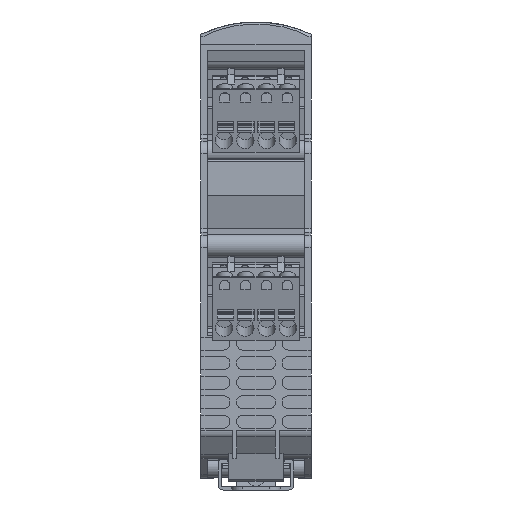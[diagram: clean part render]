
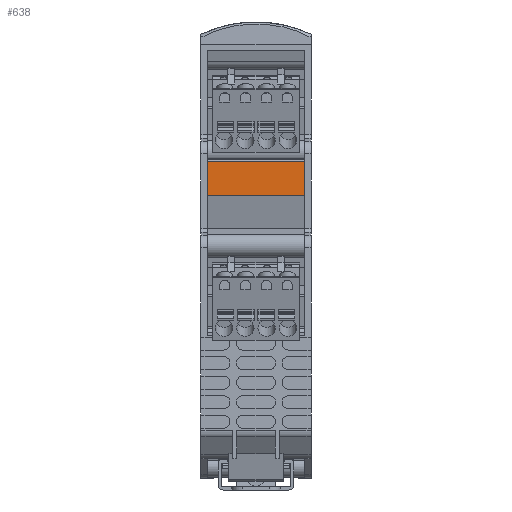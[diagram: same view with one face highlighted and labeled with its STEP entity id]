
A CAD part, front view. The second image highlights one B-rep face of the part: STEP entity #638.
In plain terms, the highlighted planar face has unit normal (0, -1, 0).
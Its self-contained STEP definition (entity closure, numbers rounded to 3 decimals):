
#638 = ADVANCED_FACE( '', ( #2587 ), #2588, .T. );
#2587 = FACE_OUTER_BOUND( '', #5300, .T. );
#2588 = PLANE( '', #5301 );
#5300 = EDGE_LOOP( '', ( #11658, #11659, #11660, #11661 ) );
#5301 = AXIS2_PLACEMENT_3D( '', #11662, #11663, #11664 );
#11658 = ORIENTED_EDGE( '', *, *, #20081, .F. );
#11659 = ORIENTED_EDGE( '', *, *, #20082, .F. );
#11660 = ORIENTED_EDGE( '', *, *, #20083, .T. );
#11661 = ORIENTED_EDGE( '', *, *, #20079, .T. );
#11662 = CARTESIAN_POINT( '', ( 11.2, 5.641, 60.607 ) );
#11663 = DIRECTION( '', ( 0., -1., 0. ) );
#11664 = DIRECTION( '', ( 0., 0., -1. ) );
#20079 = EDGE_CURVE( '', #25323, #25321, #25324, .T. );
#20081 = EDGE_CURVE( '', #25326, #25321, #25327, .T. );
#20082 = EDGE_CURVE( '', #25328, #25326, #25329, .T. );
#20083 = EDGE_CURVE( '', #25328, #25323, #25330, .T. );
#25321 = VERTEX_POINT( '', #33487 );
#25323 = VERTEX_POINT( '', #33489 );
#25324 = LINE( '', #33490, #33491 );
#25326 = VERTEX_POINT( '', #33493 );
#25327 = LINE( '', #33494, #33495 );
#25328 = VERTEX_POINT( '', #33496 );
#25329 = LINE( '', #33497, #33498 );
#25330 = LINE( '', #33499, #33500 );
#33487 = CARTESIAN_POINT( '', ( -11.2, 5.641, 68.505 ) );
#33489 = CARTESIAN_POINT( '', ( 11.2, 5.641, 68.505 ) );
#33490 = CARTESIAN_POINT( '', ( 11.2, 5.641, 68.505 ) );
#33491 = VECTOR( '', #40036, 1000. );
#33493 = CARTESIAN_POINT( '', ( -11.2, 5.641, 60.607 ) );
#33494 = CARTESIAN_POINT( '', ( -11.2, 5.641, 60.607 ) );
#33495 = VECTOR( '', #40040, 1000. );
#33496 = CARTESIAN_POINT( '', ( 11.2, 5.641, 60.607 ) );
#33497 = CARTESIAN_POINT( '', ( 11.2, 5.641, 60.607 ) );
#33498 = VECTOR( '', #40041, 1000. );
#33499 = CARTESIAN_POINT( '', ( 11.2, 5.641, 60.607 ) );
#33500 = VECTOR( '', #40042, 1000. );
#40036 = DIRECTION( '', ( -1., 0., 0. ) );
#40040 = DIRECTION( '', ( 0., 0., 1. ) );
#40041 = DIRECTION( '', ( -1., 0., 0. ) );
#40042 = DIRECTION( '', ( 0., 0., 1. ) );
